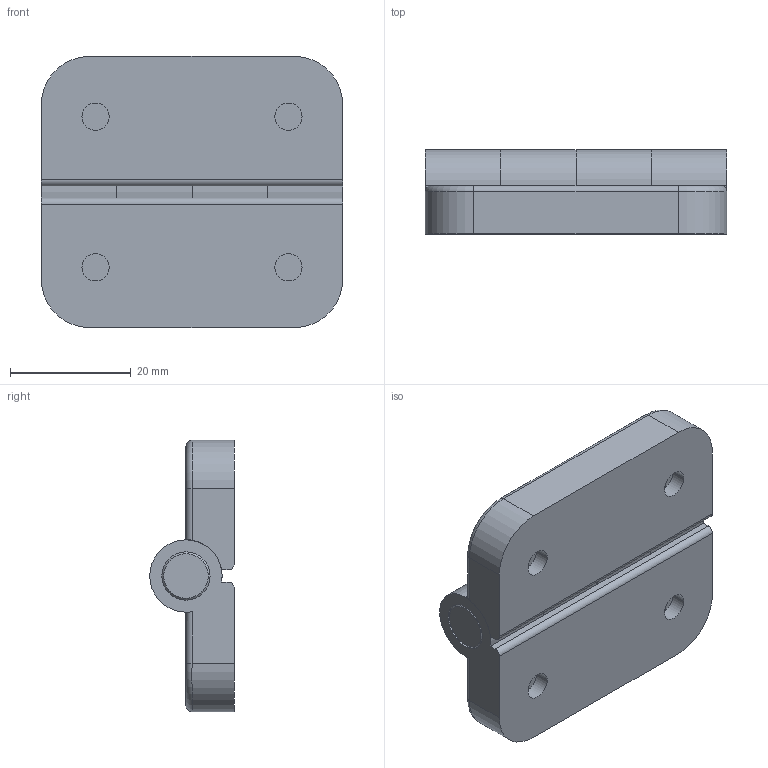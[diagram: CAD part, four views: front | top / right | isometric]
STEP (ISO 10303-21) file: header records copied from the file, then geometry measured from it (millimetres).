
FILE_DESCRIPTION (( 'STEP AP214' ), '1' );
FILE_NAME ('122.2-45-50-EH.step', '2020-09-10T09:42:07', ( '' ), ( '' ), 'SwSTEP 2.0', 'SolidWorks 2019', '' );
FILE_SCHEMA (( 'AUTOMOTIVE_DESIGN' ));
Length unit declared in the file: millimetre
Products named in the file (3): WB122.2^WB122.2_EH ohne; 122.2-45-50-EH; WB122.2^WB122.2_EH mit
Assembly tree (2 placements, depth 2):
  122.2-45-50-EH
    WB122.2^WB122.2_EH mit
    WB122.2^WB122.2_EH ohne
Bounding box: 50 x 14 x 45 mm (x, y, z)
Volume: 19206.2 mm3; surface area: 9619.6 mm2
Topology: 2 solids, 2 shells, 104 faces, 244 edges, 154 vertices
Faces by surface type: plane 54, cylinder 42, cone 4, torus 4
Entity records: 3106 total; most frequent: DIRECTION 550, CARTESIAN_POINT 525, ORIENTED_EDGE 488, EDGE_CURVE 244, AXIS2_PLACEMENT_3D 199, VERTEX_POINT 154, LINE 152, VECTOR 152
